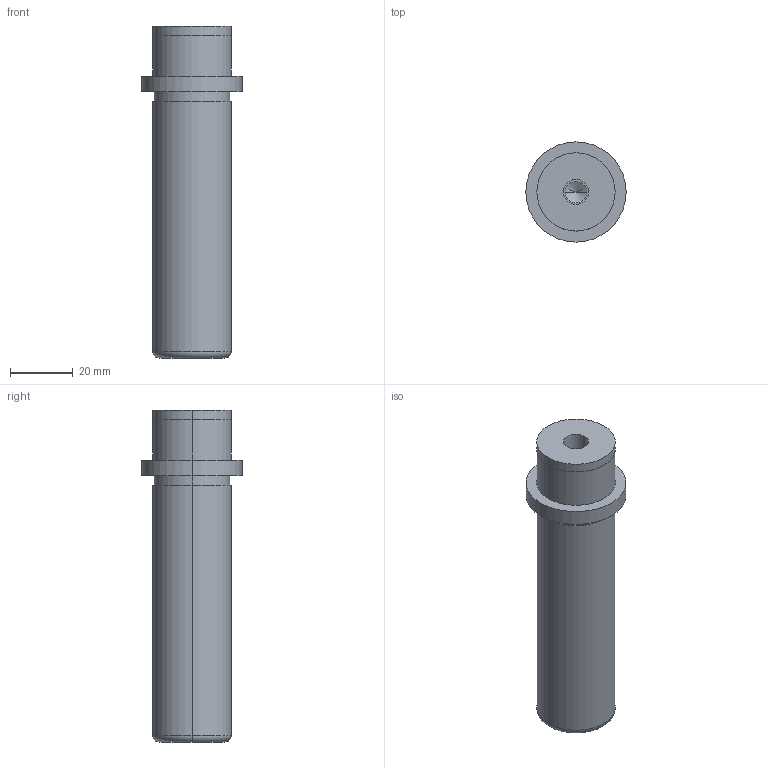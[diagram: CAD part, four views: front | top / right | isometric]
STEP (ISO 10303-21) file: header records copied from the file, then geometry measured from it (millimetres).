
FILE_DESCRIPTION(/* description */ (''),/* implementation_level */ '2;1');
FILE_NAME(/* name */ '3d_sgpw25-90_05240_r00.stp',/* time_stamp */ '2011-01-10T14:11:03+09:00',/* author */ ('MISUMI'),/* organization */ (''),/* preprocessor_version */ 'ST-DEVELOPER v11',/* originating_system */ 'UGS - NX 5.0',/* authorisation */ '');
FILE_SCHEMA (('CONFIG_CONTROL_DESIGN'));
Length unit declared in the file: millimetre
Products named in the file (1): 3d_sgpw25-90_05240_r00
Bounding box: 32 x 32 x 106 mm (x, y, z)
Volume: 51416.7 mm3; surface area: 11043.5 mm2
Topology: 1 solids, 1 shells, 31 faces, 64 edges, 38 vertices
Faces by surface type: cylinder 18, plane 7, cone 4, torus 2
Entity records: 890 total; most frequent: DIRECTION 162, CARTESIAN_POINT 130, ORIENTED_EDGE 120, AXIS2_PLACEMENT_3D 70, EDGE_CURVE 60, EDGE_LOOP 38, CIRCLE 38, VERTEX_POINT 38
